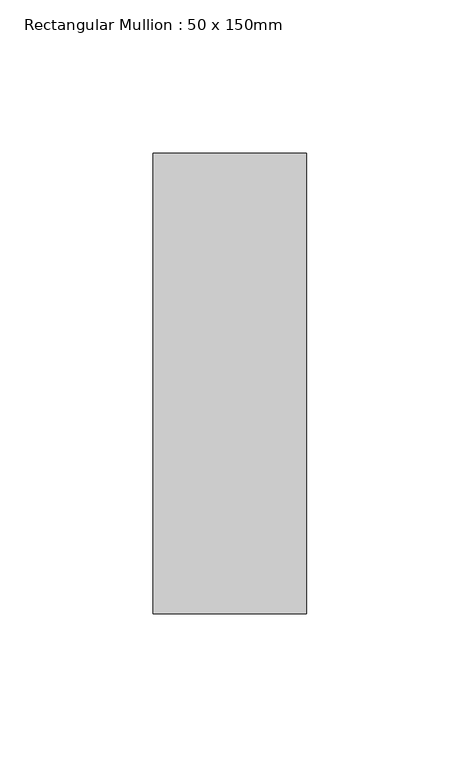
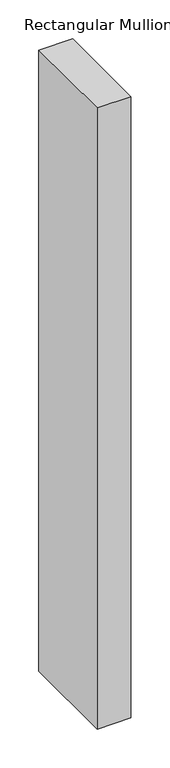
"""IFC4 building model written with IfcOpenShell, lengths in millimetres: member geometry, Rectangular Mullion : 50 x 150mm."""

from ifc_helpers import new_model, si_unit, frame, origin, place, context, project, spatial, polyline, outline, extrude, source, transform, mapped, element, save


def rectangular_mullion_50_x_150mm_9a428378(model_context):
    return source(origin(), model_context, "Body", "SweptSolid", [
        extrude(outline(polyline([(25.0, 75.0), (25.0, -75.0), (-25.0, -75.0), (-25.0, 75.0), (25.0, 75.0)])), frame((0.0, 0.0, -975.5480085), z_axis=(0.0, 0.0, 1.0), x_axis=(1.0, 0.0, 0.0)), (0.0, 0.0, 1.0), 975.5480085),
    ])


if __name__ == "__main__":
    model = new_model("IFC4")
    model_context = context("Model", 3, world=origin())
    ifc_project = project(units=[si_unit("LENGTHUNIT", "METRE", prefix="MILLI")], contexts=[model_context])
    site = spatial("IfcSite", under=ifc_project)
    building = spatial("IfcBuilding", under=site)
    placement = place(None, origin())
    rectangular_mullion_50_x_150mm_shape = rectangular_mullion_50_x_150mm_9a428378(model_context)
    element("IfcMember", 1, ObjectType="Rectangular Mullion : 50 x 150mm", at=placement, inside=building, context=model_context, shape_type="MappedRepresentation", body=[
        mapped(rectangular_mullion_50_x_150mm_shape, transform((0.0, 0.0, 0.0), x_axis=(1.0, 0.0, 0.0), y_axis=(0.0, 1.0, 0.0), z_axis=(0.0, 0.0, 1.0))),
    ])
    save(model, "model.ifc")
